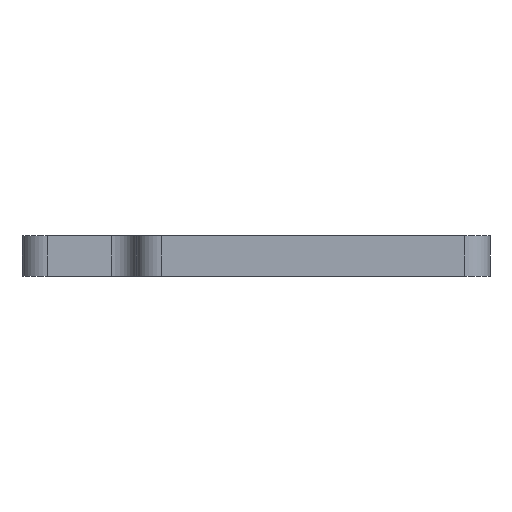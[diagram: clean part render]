
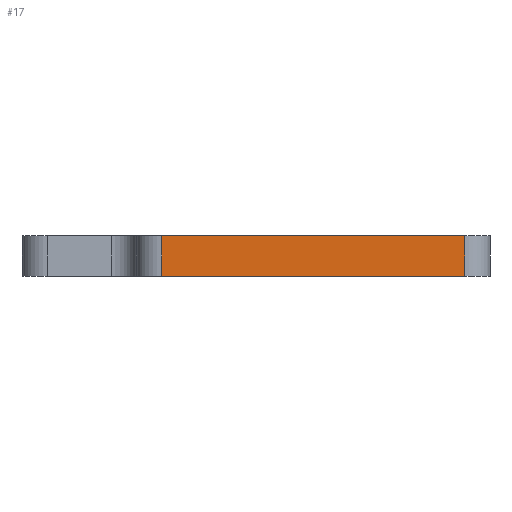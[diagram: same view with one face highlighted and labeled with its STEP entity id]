
A CAD part, front view. The second image highlights one B-rep face of the part: STEP entity #17.
In plain terms, the highlighted planar face has unit normal (0, -1, 0).
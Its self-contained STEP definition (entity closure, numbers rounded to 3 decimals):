
#17 = ADVANCED_FACE('',(#18),#32,.F.);
#18 = FACE_BOUND('',#19,.F.);
#19 = EDGE_LOOP('',(#20,#55,#83,#111));
#20 = ORIENTED_EDGE('',*,*,#21,.F.);
#21 = EDGE_CURVE('',#22,#24,#26,.T.);
#22 = VERTEX_POINT('',#23);
#23 = CARTESIAN_POINT('',(67.025,57.,0.));
#24 = VERTEX_POINT('',#25);
#25 = CARTESIAN_POINT('',(79.025,57.,0.));
#26 = SURFACE_CURVE('',#27,(#31,#43),.PCURVE_S1.);
#27 = LINE('',#28,#29);
#28 = CARTESIAN_POINT('',(66.025,57.,0.));
#29 = VECTOR('',#30,1.);
#30 = DIRECTION('',(1.,0.,0.));
#31 = PCURVE('',#32,#37);
#32 = PLANE('',#33);
#33 = AXIS2_PLACEMENT_3D('',#34,#35,#36);
#34 = CARTESIAN_POINT('',(66.025,57.,0.));
#35 = DIRECTION('',(0.,1.,0.));
#36 = DIRECTION('',(1.,0.,0.));
#37 = DEFINITIONAL_REPRESENTATION('',(#38),#42);
#38 = LINE('',#39,#40);
#39 = CARTESIAN_POINT('',(0.,0.));
#40 = VECTOR('',#41,1.);
#41 = DIRECTION('',(1.,0.));
#42 = ( GEOMETRIC_REPRESENTATION_CONTEXT(2) 
PARAMETRIC_REPRESENTATION_CONTEXT() REPRESENTATION_CONTEXT('2D SPACE',''
  ) );
#43 = PCURVE('',#44,#49);
#44 = PLANE('',#45);
#45 = AXIS2_PLACEMENT_3D('',#46,#47,#48);
#46 = CARTESIAN_POINT('',(71.449,82.187,0.));
#47 = DIRECTION('',(0.,0.,1.));
#48 = DIRECTION('',(1.,0.,-0.));
#49 = DEFINITIONAL_REPRESENTATION('',(#50),#54);
#50 = LINE('',#51,#52);
#51 = CARTESIAN_POINT('',(-5.424,-25.187));
#52 = VECTOR('',#53,1.);
#53 = DIRECTION('',(1.,0.));
#54 = ( GEOMETRIC_REPRESENTATION_CONTEXT(2) 
PARAMETRIC_REPRESENTATION_CONTEXT() REPRESENTATION_CONTEXT('2D SPACE',''
  ) );
#55 = ORIENTED_EDGE('',*,*,#56,.T.);
#56 = EDGE_CURVE('',#22,#57,#59,.T.);
#57 = VERTEX_POINT('',#58);
#58 = CARTESIAN_POINT('',(67.025,57.,1.6));
#59 = SURFACE_CURVE('',#60,(#64,#71),.PCURVE_S1.);
#60 = LINE('',#61,#62);
#61 = CARTESIAN_POINT('',(67.025,57.,0.));
#62 = VECTOR('',#63,1.);
#63 = DIRECTION('',(0.,0.,1.));
#64 = PCURVE('',#32,#65);
#65 = DEFINITIONAL_REPRESENTATION('',(#66),#70);
#66 = LINE('',#67,#68);
#67 = CARTESIAN_POINT('',(1.,0.));
#68 = VECTOR('',#69,1.);
#69 = DIRECTION('',(0.,-1.));
#70 = ( GEOMETRIC_REPRESENTATION_CONTEXT(2) 
PARAMETRIC_REPRESENTATION_CONTEXT() REPRESENTATION_CONTEXT('2D SPACE',''
  ) );
#71 = PCURVE('',#72,#77);
#72 = CYLINDRICAL_SURFACE('',#73,1.);
#73 = AXIS2_PLACEMENT_3D('',#74,#75,#76);
#74 = CARTESIAN_POINT('',(67.025,58.,0.));
#75 = DIRECTION('',(0.,0.,1.));
#76 = DIRECTION('',(0.,-1.,0.));
#77 = DEFINITIONAL_REPRESENTATION('',(#78),#82);
#78 = LINE('',#79,#80);
#79 = CARTESIAN_POINT('',(-0.,0.));
#80 = VECTOR('',#81,1.);
#81 = DIRECTION('',(-0.,1.));
#82 = ( GEOMETRIC_REPRESENTATION_CONTEXT(2) 
PARAMETRIC_REPRESENTATION_CONTEXT() REPRESENTATION_CONTEXT('2D SPACE',''
  ) );
#83 = ORIENTED_EDGE('',*,*,#84,.T.);
#84 = EDGE_CURVE('',#57,#85,#87,.T.);
#85 = VERTEX_POINT('',#86);
#86 = CARTESIAN_POINT('',(79.025,57.,1.6));
#87 = SURFACE_CURVE('',#88,(#92,#99),.PCURVE_S1.);
#88 = LINE('',#89,#90);
#89 = CARTESIAN_POINT('',(66.025,57.,1.6));
#90 = VECTOR('',#91,1.);
#91 = DIRECTION('',(1.,0.,0.));
#92 = PCURVE('',#32,#93);
#93 = DEFINITIONAL_REPRESENTATION('',(#94),#98);
#94 = LINE('',#95,#96);
#95 = CARTESIAN_POINT('',(0.,-1.6));
#96 = VECTOR('',#97,1.);
#97 = DIRECTION('',(1.,0.));
#98 = ( GEOMETRIC_REPRESENTATION_CONTEXT(2) 
PARAMETRIC_REPRESENTATION_CONTEXT() REPRESENTATION_CONTEXT('2D SPACE',''
  ) );
#99 = PCURVE('',#100,#105);
#100 = PLANE('',#101);
#101 = AXIS2_PLACEMENT_3D('',#102,#103,#104);
#102 = CARTESIAN_POINT('',(71.449,82.187,1.6));
#103 = DIRECTION('',(0.,0.,1.));
#104 = DIRECTION('',(1.,0.,-0.));
#105 = DEFINITIONAL_REPRESENTATION('',(#106),#110);
#106 = LINE('',#107,#108);
#107 = CARTESIAN_POINT('',(-5.424,-25.187));
#108 = VECTOR('',#109,1.);
#109 = DIRECTION('',(1.,0.));
#110 = ( GEOMETRIC_REPRESENTATION_CONTEXT(2) 
PARAMETRIC_REPRESENTATION_CONTEXT() REPRESENTATION_CONTEXT('2D SPACE',''
  ) );
#111 = ORIENTED_EDGE('',*,*,#112,.F.);
#112 = EDGE_CURVE('',#24,#85,#113,.T.);
#113 = SURFACE_CURVE('',#114,(#118,#125),.PCURVE_S1.);
#114 = LINE('',#115,#116);
#115 = CARTESIAN_POINT('',(79.025,57.,0.));
#116 = VECTOR('',#117,1.);
#117 = DIRECTION('',(0.,0.,1.));
#118 = PCURVE('',#32,#119);
#119 = DEFINITIONAL_REPRESENTATION('',(#120),#124);
#120 = LINE('',#121,#122);
#121 = CARTESIAN_POINT('',(13.,0.));
#122 = VECTOR('',#123,1.);
#123 = DIRECTION('',(0.,-1.));
#124 = ( GEOMETRIC_REPRESENTATION_CONTEXT(2) 
PARAMETRIC_REPRESENTATION_CONTEXT() REPRESENTATION_CONTEXT('2D SPACE',''
  ) );
#125 = PCURVE('',#126,#131);
#126 = CYLINDRICAL_SURFACE('',#127,1.);
#127 = AXIS2_PLACEMENT_3D('',#128,#129,#130);
#128 = CARTESIAN_POINT('',(79.025,58.,0.));
#129 = DIRECTION('',(0.,0.,1.));
#130 = DIRECTION('',(0.,-1.,0.));
#131 = DEFINITIONAL_REPRESENTATION('',(#132),#136);
#132 = LINE('',#133,#134);
#133 = CARTESIAN_POINT('',(0.,0.));
#134 = VECTOR('',#135,1.);
#135 = DIRECTION('',(0.,1.));
#136 = ( GEOMETRIC_REPRESENTATION_CONTEXT(2) 
PARAMETRIC_REPRESENTATION_CONTEXT() REPRESENTATION_CONTEXT('2D SPACE',''
  ) );
